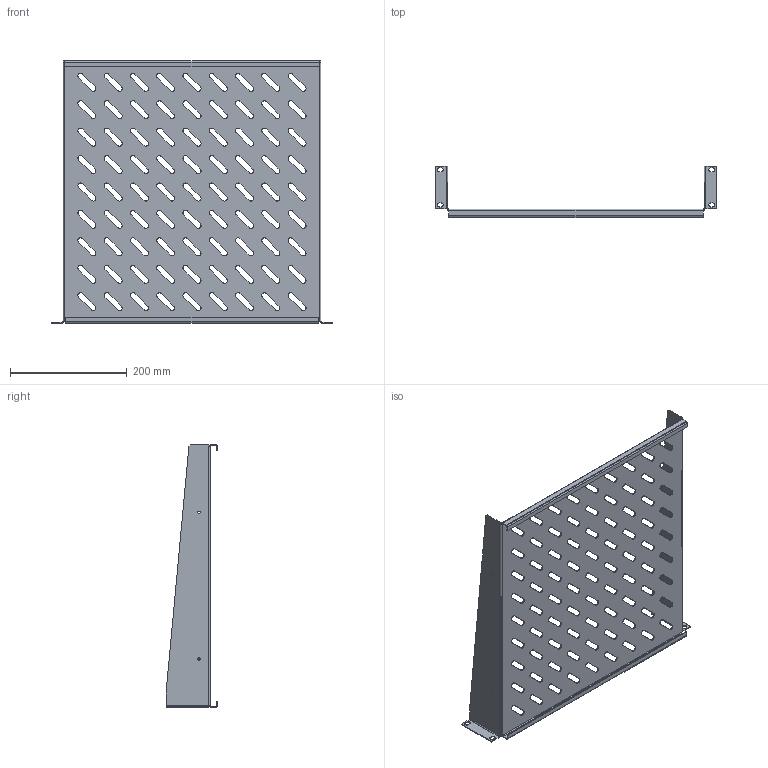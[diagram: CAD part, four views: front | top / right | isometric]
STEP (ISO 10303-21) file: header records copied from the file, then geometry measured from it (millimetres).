
FILE_DESCRIPTION (( 'STEP AP203' ), '1' );
FILE_NAME ('SH 48.45 I2 Ïîëêà ñ êðåïëåíèåì â îäíîé ïëîñêîñòè.STEP', '2013-01-12T10:04:35', ( 'System' ), ( '' ), 'SwSTEP 2.0', 'SolidWorks 2012', '' );
FILE_SCHEMA (( 'CONFIG_CONTROL_DESIGN' ));
Length unit declared in the file: millimetre
Products named in the file (1): SH 48.45 I2 Ïîëêà ñ êðåïëåíèåì â îäíîé ïëîñêîñòè
Bounding box: 482.6 x 88 x 450 mm (x, y, z)
Volume: 336162.6 mm3; surface area: 493750.4 mm2
Topology: 1 solids, 1 shells, 511 faces, 1463 edges, 954 vertices
Faces by surface type: cylinder 279, plane 232
Entity records: 17236 total; most frequent: DIRECTION 3045, CARTESIAN_POINT 2929, ORIENTED_EDGE 2926, EDGE_CURVE 1463, AXIS2_PLACEMENT_3D 1070, VERTEX_POINT 954, LINE 905, VECTOR 905
